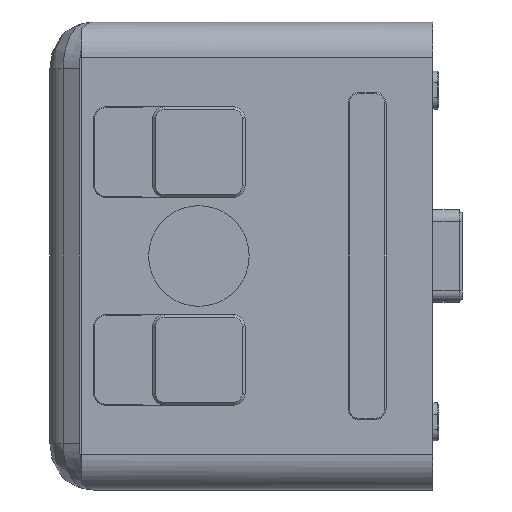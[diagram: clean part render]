
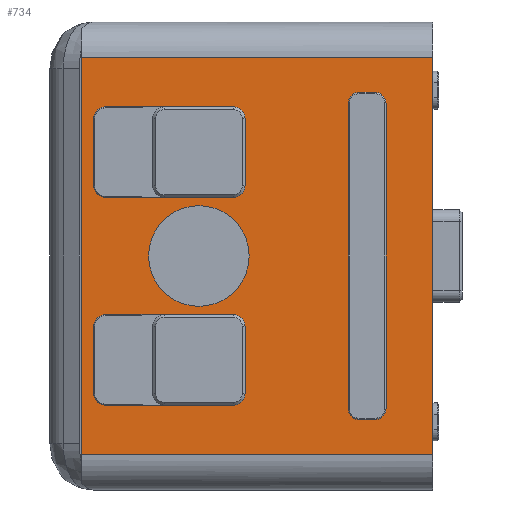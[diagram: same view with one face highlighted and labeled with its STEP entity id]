
A CAD part, left-side view. The second image highlights one B-rep face of the part: STEP entity #734.
In plain terms, the highlighted planar face has unit normal (-1, 0, 0).
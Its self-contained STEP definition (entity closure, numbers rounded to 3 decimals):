
#352=FACE_BOUND('',#1204,.T.);
#353=FACE_BOUND('',#1205,.T.);
#354=FACE_BOUND('',#1206,.T.);
#355=FACE_BOUND('',#1207,.T.);
#356=FACE_BOUND('',#1208,.T.);
#533=CIRCLE('',#3784,1.);
#534=CIRCLE('',#3787,1.);
#535=CIRCLE('',#3790,1.);
#536=CIRCLE('',#3793,1.);
#537=CIRCLE('',#3796,1.);
#538=CIRCLE('',#3799,1.);
#539=CIRCLE('',#3802,1.);
#540=CIRCLE('',#3805,1.);
#541=CIRCLE('',#3808,1.);
#542=CIRCLE('',#3811,1.);
#543=CIRCLE('',#3814,1.);
#544=CIRCLE('',#3817,1.);
#545=CIRCLE('',#3819,4.3);
#734=ADVANCED_FACE('',(#352,#353,#354,#355,#356),#853,.T.);
#853=PLANE('',#3871);
#1204=EDGE_LOOP('',(#1892,#1893,#1894,#1895,#1896,#1897,#1898,#1899));
#1205=EDGE_LOOP('',(#1900,#1901,#1902,#1903,#1904,#1905,#1906,#1907));
#1206=EDGE_LOOP('',(#1908,#1909,#1910,#1911,#1912,#1913,#1914,#1915));
#1207=EDGE_LOOP('',(#1916));
#1208=EDGE_LOOP('',(#1917,#1918,#1919,#1920));
#1892=ORIENTED_EDGE('',*,*,#2805,.F.);
#1893=ORIENTED_EDGE('',*,*,#2807,.T.);
#1894=ORIENTED_EDGE('',*,*,#2809,.F.);
#1895=ORIENTED_EDGE('',*,*,#2811,.T.);
#1896=ORIENTED_EDGE('',*,*,#2813,.F.);
#1897=ORIENTED_EDGE('',*,*,#2815,.T.);
#1898=ORIENTED_EDGE('',*,*,#2817,.F.);
#1899=ORIENTED_EDGE('',*,*,#2818,.T.);
#1900=ORIENTED_EDGE('',*,*,#2821,.F.);
#1901=ORIENTED_EDGE('',*,*,#2823,.T.);
#1902=ORIENTED_EDGE('',*,*,#2825,.T.);
#1903=ORIENTED_EDGE('',*,*,#2827,.T.);
#1904=ORIENTED_EDGE('',*,*,#2829,.T.);
#1905=ORIENTED_EDGE('',*,*,#2831,.T.);
#1906=ORIENTED_EDGE('',*,*,#2833,.T.);
#1907=ORIENTED_EDGE('',*,*,#2834,.T.);
#1908=ORIENTED_EDGE('',*,*,#2837,.F.);
#1909=ORIENTED_EDGE('',*,*,#2839,.T.);
#1910=ORIENTED_EDGE('',*,*,#2841,.T.);
#1911=ORIENTED_EDGE('',*,*,#2843,.T.);
#1912=ORIENTED_EDGE('',*,*,#2845,.T.);
#1913=ORIENTED_EDGE('',*,*,#2847,.T.);
#1914=ORIENTED_EDGE('',*,*,#2849,.F.);
#1915=ORIENTED_EDGE('',*,*,#2850,.T.);
#1916=ORIENTED_EDGE('',*,*,#2851,.T.);
#1917=ORIENTED_EDGE('',*,*,#2917,.T.);
#1918=ORIENTED_EDGE('',*,*,#2918,.F.);
#1919=ORIENTED_EDGE('',*,*,#2919,.T.);
#1920=ORIENTED_EDGE('',*,*,#2920,.F.);
#2398=VERTEX_POINT('',#5319);
#2399=VERTEX_POINT('',#5321);
#2400=VERTEX_POINT('',#5325);
#2401=VERTEX_POINT('',#5329);
#2402=VERTEX_POINT('',#5333);
#2403=VERTEX_POINT('',#5337);
#2404=VERTEX_POINT('',#5341);
#2405=VERTEX_POINT('',#5345);
#2406=VERTEX_POINT('',#5351);
#2407=VERTEX_POINT('',#5353);
#2408=VERTEX_POINT('',#5357);
#2409=VERTEX_POINT('',#5361);
#2410=VERTEX_POINT('',#5365);
#2411=VERTEX_POINT('',#5369);
#2412=VERTEX_POINT('',#5373);
#2413=VERTEX_POINT('',#5377);
#2414=VERTEX_POINT('',#5383);
#2415=VERTEX_POINT('',#5385);
#2416=VERTEX_POINT('',#5389);
#2417=VERTEX_POINT('',#5393);
#2418=VERTEX_POINT('',#5397);
#2419=VERTEX_POINT('',#5401);
#2420=VERTEX_POINT('',#5405);
#2421=VERTEX_POINT('',#5409);
#2422=VERTEX_POINT('',#5415);
#2456=VERTEX_POINT('',#5549);
#2457=VERTEX_POINT('',#5550);
#2458=VERTEX_POINT('',#5552);
#2459=VERTEX_POINT('',#5554);
#2805=EDGE_CURVE('',#2399,#2398,#3223,.T.);
#2807=EDGE_CURVE('',#2399,#2400,#533,.T.);
#2809=EDGE_CURVE('',#2401,#2400,#3226,.T.);
#2811=EDGE_CURVE('',#2401,#2402,#534,.T.);
#2813=EDGE_CURVE('',#2403,#2402,#3229,.T.);
#2815=EDGE_CURVE('',#2403,#2404,#535,.T.);
#2817=EDGE_CURVE('',#2405,#2404,#3232,.T.);
#2818=EDGE_CURVE('',#2405,#2398,#536,.T.);
#2821=EDGE_CURVE('',#2407,#2406,#3235,.T.);
#2823=EDGE_CURVE('',#2407,#2408,#537,.T.);
#2825=EDGE_CURVE('',#2408,#2409,#3238,.T.);
#2827=EDGE_CURVE('',#2409,#2410,#538,.T.);
#2829=EDGE_CURVE('',#2410,#2411,#3241,.T.);
#2831=EDGE_CURVE('',#2411,#2412,#539,.T.);
#2833=EDGE_CURVE('',#2412,#2413,#3244,.T.);
#2834=EDGE_CURVE('',#2413,#2406,#540,.T.);
#2837=EDGE_CURVE('',#2415,#2414,#3247,.T.);
#2839=EDGE_CURVE('',#2415,#2416,#541,.T.);
#2841=EDGE_CURVE('',#2416,#2417,#3250,.T.);
#2843=EDGE_CURVE('',#2417,#2418,#542,.T.);
#2845=EDGE_CURVE('',#2418,#2419,#3253,.T.);
#2847=EDGE_CURVE('',#2419,#2420,#543,.T.);
#2849=EDGE_CURVE('',#2421,#2420,#3256,.T.);
#2850=EDGE_CURVE('',#2421,#2414,#544,.T.);
#2851=EDGE_CURVE('',#2422,#2422,#545,.T.);
#2917=EDGE_CURVE('',#2456,#2457,#3305,.T.);
#2918=EDGE_CURVE('',#2458,#2457,#3306,.T.);
#2919=EDGE_CURVE('',#2458,#2459,#3307,.T.);
#2920=EDGE_CURVE('',#2456,#2459,#3308,.T.);
#3223=LINE('',#5322,#3502);
#3226=LINE('',#5330,#3505);
#3229=LINE('',#5338,#3508);
#3232=LINE('',#5346,#3511);
#3235=LINE('',#5354,#3514);
#3238=LINE('',#5362,#3517);
#3241=LINE('',#5370,#3520);
#3244=LINE('',#5378,#3523);
#3247=LINE('',#5386,#3526);
#3250=LINE('',#5394,#3529);
#3253=LINE('',#5402,#3532);
#3256=LINE('',#5410,#3535);
#3305=LINE('',#5548,#3584);
#3306=LINE('',#5551,#3585);
#3307=LINE('',#5553,#3586);
#3308=LINE('',#5555,#3587);
#3502=VECTOR('',#4415,1.);
#3505=VECTOR('',#4424,1.);
#3508=VECTOR('',#4433,1.);
#3511=VECTOR('',#4442,1.);
#3514=VECTOR('',#4451,1.);
#3517=VECTOR('',#4460,1.);
#3520=VECTOR('',#4469,1.);
#3523=VECTOR('',#4478,1.);
#3526=VECTOR('',#4487,1.);
#3529=VECTOR('',#4496,1.);
#3532=VECTOR('',#4505,1.);
#3535=VECTOR('',#4514,1.);
#3584=VECTOR('',#4673,1.);
#3585=VECTOR('',#4674,1.);
#3586=VECTOR('',#4675,1.);
#3587=VECTOR('',#4676,1.);
#3784=AXIS2_PLACEMENT_3D('',#5326,#4419,#4420);
#3787=AXIS2_PLACEMENT_3D('',#5334,#4428,#4429);
#3790=AXIS2_PLACEMENT_3D('',#5342,#4437,#4438);
#3793=AXIS2_PLACEMENT_3D('',#5348,#4445,#4446);
#3796=AXIS2_PLACEMENT_3D('',#5358,#4455,#4456);
#3799=AXIS2_PLACEMENT_3D('',#5366,#4464,#4465);
#3802=AXIS2_PLACEMENT_3D('',#5374,#4473,#4474);
#3805=AXIS2_PLACEMENT_3D('',#5380,#4481,#4482);
#3808=AXIS2_PLACEMENT_3D('',#5390,#4491,#4492);
#3811=AXIS2_PLACEMENT_3D('',#5398,#4500,#4501);
#3814=AXIS2_PLACEMENT_3D('',#5406,#4509,#4510);
#3817=AXIS2_PLACEMENT_3D('',#5412,#4517,#4518);
#3819=AXIS2_PLACEMENT_3D('',#5414,#4521,#4522);
#3871=AXIS2_PLACEMENT_3D('',#5556,#4677,#4678);
#4415=DIRECTION('',(0.,0.,-1.));
#4419=DIRECTION('',(1.,0.,0.));
#4420=DIRECTION('',(0.,0.,-1.));
#4424=DIRECTION('',(0.,1.,0.));
#4428=DIRECTION('',(1.,0.,0.));
#4429=DIRECTION('',(0.,0.,-1.));
#4433=DIRECTION('',(0.,0.,1.));
#4437=DIRECTION('',(1.,0.,0.));
#4438=DIRECTION('',(0.,0.,-1.));
#4442=DIRECTION('',(0.,-1.,0.));
#4445=DIRECTION('',(1.,0.,0.));
#4446=DIRECTION('',(0.,0.,-1.));
#4451=DIRECTION('',(0.,0.,1.));
#4455=DIRECTION('',(1.,0.,0.));
#4456=DIRECTION('',(0.,0.,-1.));
#4460=DIRECTION('',(0.,1.,0.));
#4464=DIRECTION('',(1.,0.,0.));
#4465=DIRECTION('',(0.,0.,-1.));
#4469=DIRECTION('',(0.,0.,1.));
#4473=DIRECTION('',(1.,0.,0.));
#4474=DIRECTION('',(0.,0.,-1.));
#4478=DIRECTION('',(0.,-1.,0.));
#4481=DIRECTION('',(1.,0.,0.));
#4482=DIRECTION('',(0.,0.,-1.));
#4487=DIRECTION('',(0.,0.,1.));
#4491=DIRECTION('',(1.,0.,0.));
#4492=DIRECTION('',(0.,0.,-1.));
#4496=DIRECTION('',(0.,1.,0.));
#4500=DIRECTION('',(1.,0.,0.));
#4501=DIRECTION('',(0.,0.,-1.));
#4505=DIRECTION('',(0.,0.,1.));
#4509=DIRECTION('',(1.,0.,0.));
#4510=DIRECTION('',(0.,0.,-1.));
#4514=DIRECTION('',(0.,1.,0.));
#4517=DIRECTION('',(1.,0.,0.));
#4518=DIRECTION('',(0.,0.,-1.));
#4521=DIRECTION('',(1.,0.,0.));
#4522=DIRECTION('',(0.,0.,-1.));
#4673=DIRECTION('',(0.,1.,0.));
#4674=DIRECTION('',(0.,0.,1.));
#4675=DIRECTION('',(0.,-1.,0.));
#4676=DIRECTION('',(0.,0.,-1.));
#4677=DIRECTION('',(-1.,0.,0.));
#4678=DIRECTION('',(0.,0.,1.));
#5319=CARTESIAN_POINT('',(0.5,29.5,-14.));
#5321=CARTESIAN_POINT('',(0.5,29.5,-8.25));
#5322=CARTESIAN_POINT('',(0.5,29.5,-7.25));
#5325=CARTESIAN_POINT('',(0.5,28.5,-7.25));
#5326=CARTESIAN_POINT('',(0.5,28.5,-8.25));
#5329=CARTESIAN_POINT('',(0.5,17.55,-7.25));
#5330=CARTESIAN_POINT('',(0.5,16.55,-7.25));
#5333=CARTESIAN_POINT('',(0.5,16.55,-8.25));
#5334=CARTESIAN_POINT('',(0.5,17.55,-8.25));
#5337=CARTESIAN_POINT('',(0.5,16.55,-14.));
#5338=CARTESIAN_POINT('',(0.5,16.55,-32.75));
#5341=CARTESIAN_POINT('',(0.5,17.55,-15.));
#5342=CARTESIAN_POINT('',(0.5,17.55,-14.));
#5345=CARTESIAN_POINT('',(0.5,28.5,-15.));
#5346=CARTESIAN_POINT('',(0.5,25.5,-15.));
#5348=CARTESIAN_POINT('',(0.5,28.5,-14.));
#5351=CARTESIAN_POINT('',(0.5,16.55,-26.));
#5353=CARTESIAN_POINT('',(0.5,16.55,-31.75));
#5354=CARTESIAN_POINT('',(0.5,16.55,-32.75));
#5357=CARTESIAN_POINT('',(0.5,17.55,-32.75));
#5358=CARTESIAN_POINT('',(0.5,17.55,-31.75));
#5361=CARTESIAN_POINT('',(0.5,28.5,-32.75));
#5362=CARTESIAN_POINT('',(0.5,16.55,-32.75));
#5365=CARTESIAN_POINT('',(0.5,29.5,-31.75));
#5366=CARTESIAN_POINT('',(0.5,28.5,-31.75));
#5369=CARTESIAN_POINT('',(0.5,29.5,-26.));
#5370=CARTESIAN_POINT('',(0.5,29.5,-32.75));
#5373=CARTESIAN_POINT('',(0.5,28.5,-25.));
#5374=CARTESIAN_POINT('',(0.5,28.5,-26.));
#5377=CARTESIAN_POINT('',(0.5,17.55,-25.));
#5378=CARTESIAN_POINT('',(0.5,25.5,-25.));
#5380=CARTESIAN_POINT('',(0.5,17.55,-26.));
#5383=CARTESIAN_POINT('',(0.5,4.5,-7.));
#5385=CARTESIAN_POINT('',(0.5,4.5,-33.));
#5386=CARTESIAN_POINT('',(0.5,4.5,-34.));
#5389=CARTESIAN_POINT('',(0.5,5.5,-34.));
#5390=CARTESIAN_POINT('',(0.5,5.5,-33.));
#5393=CARTESIAN_POINT('',(0.5,6.75,-34.));
#5394=CARTESIAN_POINT('',(0.5,4.5,-34.));
#5397=CARTESIAN_POINT('',(0.5,7.75,-33.));
#5398=CARTESIAN_POINT('',(0.5,6.75,-33.));
#5401=CARTESIAN_POINT('',(0.5,7.75,-7.));
#5402=CARTESIAN_POINT('',(0.5,7.75,-34.));
#5405=CARTESIAN_POINT('',(0.5,6.75,-6.));
#5406=CARTESIAN_POINT('',(0.5,6.75,-7.));
#5409=CARTESIAN_POINT('',(0.5,5.5,-6.));
#5410=CARTESIAN_POINT('',(0.5,4.5,-6.));
#5412=CARTESIAN_POINT('',(0.5,5.5,-7.));
#5414=CARTESIAN_POINT('',(0.5,20.5,-20.));
#5415=CARTESIAN_POINT('',(0.5,20.5,-24.3));
#5548=CARTESIAN_POINT('',(0.5,15.5,-3.));
#5549=CARTESIAN_POINT('',(0.5,0.5,-3.));
#5550=CARTESIAN_POINT('',(0.5,30.5,-3.));
#5551=CARTESIAN_POINT('',(0.5,30.5,-20.));
#5552=CARTESIAN_POINT('',(0.5,30.5,-37.));
#5553=CARTESIAN_POINT('',(0.5,15.5,-37.));
#5554=CARTESIAN_POINT('',(0.5,0.5,-37.));
#5555=CARTESIAN_POINT('',(0.5,0.5,-20.));
#5556=CARTESIAN_POINT('',(0.5,15.5,-20.));
